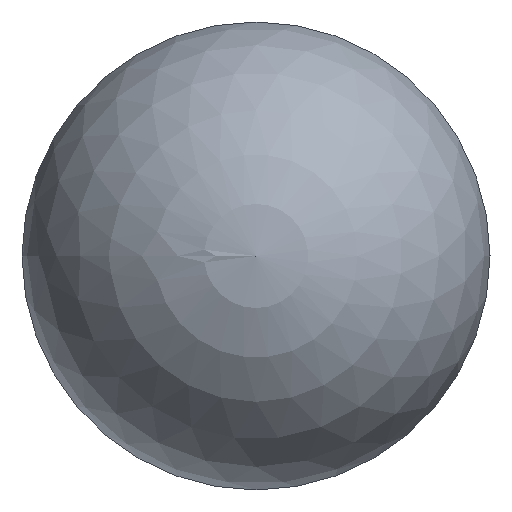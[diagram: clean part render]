
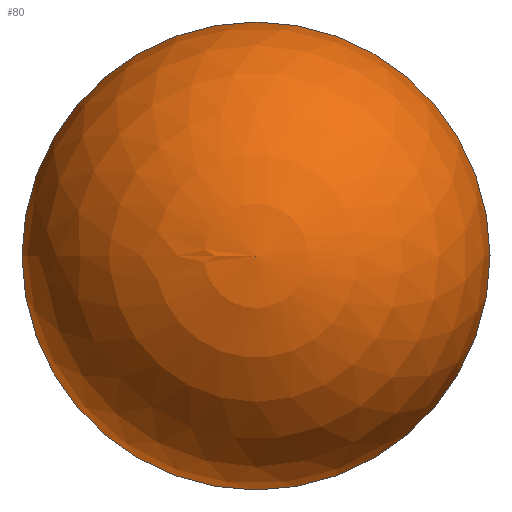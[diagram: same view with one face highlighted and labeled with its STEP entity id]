
A CAD part, left-side view. The second image highlights one B-rep face of the part: STEP entity #80.
In plain terms, the highlighted spherical face has radius 1.5 mm.
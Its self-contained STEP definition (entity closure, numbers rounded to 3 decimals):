
#80 = ADVANCED_FACE( '', ( #98, #99 ), #100, .T. );
#98 = FACE_BOUND( '', #118, .T. );
#99 = FACE_OUTER_BOUND( '', #119, .T. );
#100 = SPHERICAL_SURFACE( '', #120, 1.5 );
#118 = VERTEX_LOOP( '', #148 );
#119 = EDGE_LOOP( '', ( #149 ) );
#120 = AXIS2_PLACEMENT_3D( '', #150, #151, #152 );
#148 = VERTEX_POINT( '', #163 );
#149 = ORIENTED_EDGE( '', *, *, #162, .F. );
#150 = CARTESIAN_POINT( '', ( 1.5, 0., 0. ) );
#151 = DIRECTION( '', ( 1., 0., 0. ) );
#152 = DIRECTION( '', ( 0., 1., 0. ) );
#162 = EDGE_CURVE( '', #174, #174, #175, .T. );
#163 = CARTESIAN_POINT( '', ( 0., 0., 0. ) );
#174 = VERTEX_POINT( '', #186 );
#175 = CIRCLE( '', #187, 1.5 );
#186 = CARTESIAN_POINT( '', ( 1.5, 0., -1.5 ) );
#187 = AXIS2_PLACEMENT_3D( '', #203, #204, #205 );
#203 = CARTESIAN_POINT( '', ( 1.5, 0., 0. ) );
#204 = DIRECTION( '', ( 1., 0., 0. ) );
#205 = DIRECTION( '', ( 0., 0., -1. ) );
